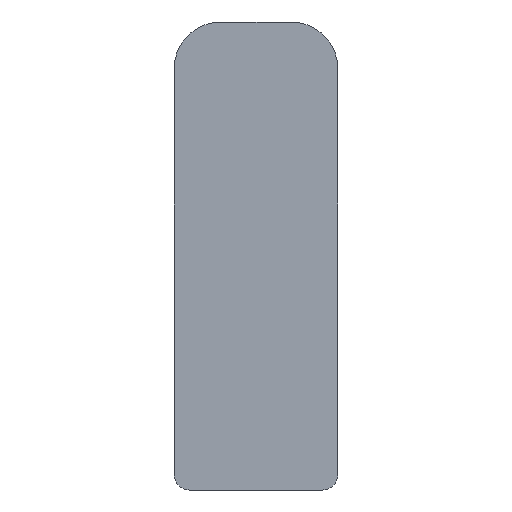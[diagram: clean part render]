
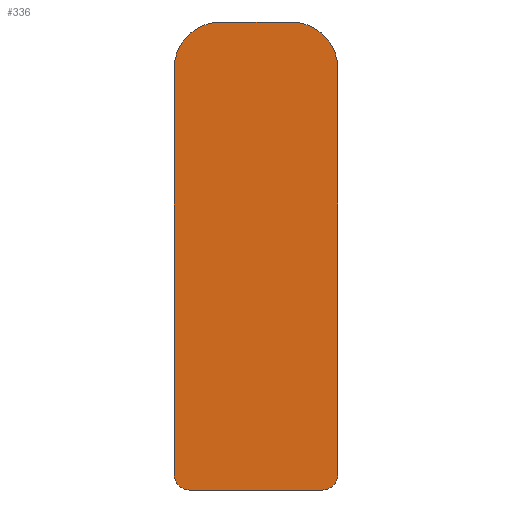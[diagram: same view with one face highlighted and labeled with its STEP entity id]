
A CAD part, left-side view. The second image highlights one B-rep face of the part: STEP entity #336.
In plain terms, the highlighted planar face has unit normal (-1, 0, 0).
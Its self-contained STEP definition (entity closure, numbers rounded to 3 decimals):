
#1 = VECTOR ( 'NONE', #292, 1000. ) ;
#2 = LINE ( 'NONE', #293, #1 ) ;
#3 = VECTOR ( 'NONE', #295, 1000. ) ;
#4 = LINE ( 'NONE', #297, #3 ) ;
#6 = CIRCLE ( 'NONE', #110, 1. ) ;
#12 = VECTOR ( 'NONE', #313, 1000. ) ;
#13 = LINE ( 'NONE', #314, #12 ) ;
#20 = CIRCLE ( 'NONE', #112, 1. ) ;
#27 = VECTOR ( 'NONE', #330, 1000. ) ;
#28 = LINE ( 'NONE', #331, #27 ) ;
#32 = CIRCLE ( 'NONE', #114, 3. ) ;
#64 = EDGE_LOOP ( 'NONE', ( #73, #71, #75, #82, #83, #84, #85, #86 ) ) ;
#71 = ORIENTED_EDGE ( 'NONE', *, *, #133, .T. ) ;
#73 = ORIENTED_EDGE ( 'NONE', *, *, #136, .T. ) ;
#75 = ORIENTED_EDGE ( 'NONE', *, *, #118, .T. ) ;
#82 = ORIENTED_EDGE ( 'NONE', *, *, #121, .T. ) ;
#83 = ORIENTED_EDGE ( 'NONE', *, *, #124, .T. ) ;
#84 = ORIENTED_EDGE ( 'NONE', *, *, #127, .T. ) ;
#85 = ORIENTED_EDGE ( 'NONE', *, *, #130, .T. ) ;
#86 = ORIENTED_EDGE ( 'NONE', *, *, #132, .T. ) ;
#102 = AXIS2_PLACEMENT_3D ( 'NONE', #232, #230, #229 ) ;
#108 = AXIS2_PLACEMENT_3D ( 'NONE', #282, #281, #280 ) ;
#110 = AXIS2_PLACEMENT_3D ( 'NONE', #306, #303, #302 ) ;
#112 = AXIS2_PLACEMENT_3D ( 'NONE', #323, #322, #321 ) ;
#114 = AXIS2_PLACEMENT_3D ( 'NONE', #221, #219, #218 ) ;
#118 = EDGE_CURVE ( 'NONE', #294, #307, #32, .T. ) ;
#121 = EDGE_CURVE ( 'NONE', #307, #318, #28, .T. ) ;
#124 = EDGE_CURVE ( 'NONE', #318, #273, #20, .T. ) ;
#127 = EDGE_CURVE ( 'NONE', #273, #291, #13, .T. ) ;
#130 = EDGE_CURVE ( 'NONE', #291, #296, #6, .T. ) ;
#132 = EDGE_CURVE ( 'NONE', #296, #288, #4, .T. ) ;
#133 = EDGE_CURVE ( 'NONE', #304, #294, #2, .T. ) ;
#136 = EDGE_CURVE ( 'NONE', #288, #304, #174, .T. ) ;
#162 = FACE_OUTER_BOUND ( 'NONE', #64, .T. ) ;
#174 = CIRCLE ( 'NONE', #108, 3. ) ;
#218 = DIRECTION ( 'NONE',  ( 0., 0., -1. ) ) ;
#219 = DIRECTION ( 'NONE',  ( -1., 0., 0. ) ) ;
#221 = CARTESIAN_POINT ( 'NONE',  ( -153.25, 2.25, 27. ) ) ;
#229 = DIRECTION ( 'NONE',  ( 0., 0., 1. ) ) ;
#230 = DIRECTION ( 'NONE',  ( -1., 0., 0. ) ) ;
#232 = CARTESIAN_POINT ( 'NONE',  ( -153.25, -2.25, 27. ) ) ;
#234 = PLANE ( 'NONE',  #102 ) ;
#249 = CARTESIAN_POINT ( 'NONE',  ( -153.25, 5.25, 1. ) ) ;
#251 = CARTESIAN_POINT ( 'NONE',  ( -153.25, 5.25, 27. ) ) ;
#253 = CARTESIAN_POINT ( 'NONE',  ( -153.25, -2.25, 30. ) ) ;
#256 = CARTESIAN_POINT ( 'NONE',  ( -153.25, -5.25, 1. ) ) ;
#257 = CARTESIAN_POINT ( 'NONE',  ( -153.25, 2.25, 30. ) ) ;
#258 = CARTESIAN_POINT ( 'NONE',  ( -153.25, -4.25, 0. ) ) ;
#259 = CARTESIAN_POINT ( 'NONE',  ( -153.25, -5.25, 27. ) ) ;
#263 = CARTESIAN_POINT ( 'NONE',  ( -153.25, 4.25, 0. ) ) ;
#273 = VERTEX_POINT ( 'NONE', #263 ) ;
#280 = DIRECTION ( 'NONE',  ( 0., 0., 1. ) ) ;
#281 = DIRECTION ( 'NONE',  ( -1., 0., 0. ) ) ;
#282 = CARTESIAN_POINT ( 'NONE',  ( -153.25, -2.25, 27. ) ) ;
#288 = VERTEX_POINT ( 'NONE', #259 ) ;
#291 = VERTEX_POINT ( 'NONE', #258 ) ;
#292 = DIRECTION ( 'NONE',  ( 0., 1., 0. ) ) ;
#293 = CARTESIAN_POINT ( 'NONE',  ( -153.25, -2.25, 30. ) ) ;
#294 = VERTEX_POINT ( 'NONE', #257 ) ;
#295 = DIRECTION ( 'NONE',  ( 0., 0., 1. ) ) ;
#296 = VERTEX_POINT ( 'NONE', #256 ) ;
#297 = CARTESIAN_POINT ( 'NONE',  ( -153.25, -5.25, 1. ) ) ;
#302 = DIRECTION ( 'NONE',  ( 0., 0., -1. ) ) ;
#303 = DIRECTION ( 'NONE',  ( -1., 0., 0. ) ) ;
#304 = VERTEX_POINT ( 'NONE', #253 ) ;
#306 = CARTESIAN_POINT ( 'NONE',  ( -153.25, -4.25, 1. ) ) ;
#307 = VERTEX_POINT ( 'NONE', #251 ) ;
#313 = DIRECTION ( 'NONE',  ( 0., -1., 0. ) ) ;
#314 = CARTESIAN_POINT ( 'NONE',  ( -153.25, -4.25, 0. ) ) ;
#318 = VERTEX_POINT ( 'NONE', #249 ) ;
#321 = DIRECTION ( 'NONE',  ( 0., 0., -1. ) ) ;
#322 = DIRECTION ( 'NONE',  ( -1., 0., 0. ) ) ;
#323 = CARTESIAN_POINT ( 'NONE',  ( -153.25, 4.25, 1. ) ) ;
#330 = DIRECTION ( 'NONE',  ( 0., 0., -1. ) ) ;
#331 = CARTESIAN_POINT ( 'NONE',  ( -153.25, 5.25, 1. ) ) ;
#336 = ADVANCED_FACE ( 'NONE', ( #162 ), #234, .T. ) ;
